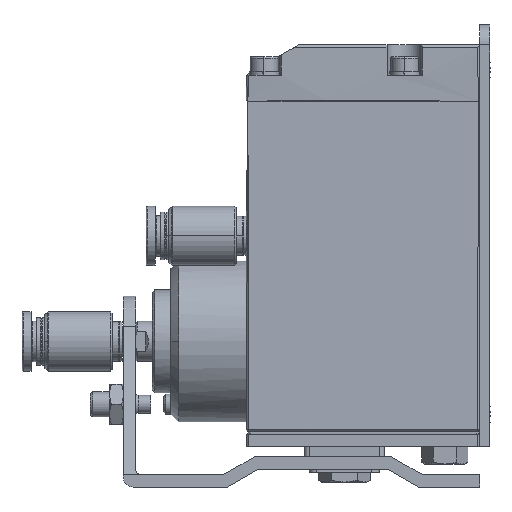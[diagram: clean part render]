
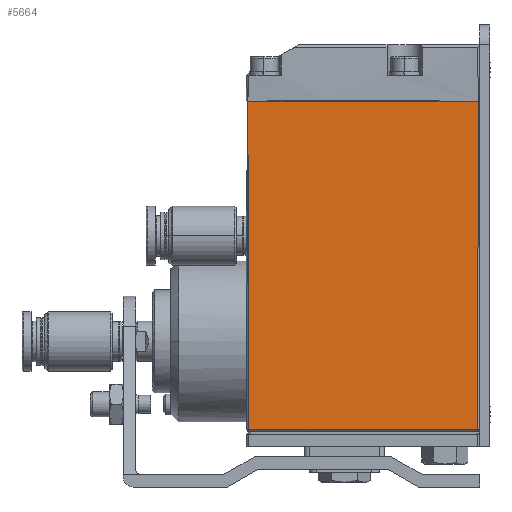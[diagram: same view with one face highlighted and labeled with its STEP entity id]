
A CAD part, left-side view. The second image highlights one B-rep face of the part: STEP entity #5664.
In plain terms, the highlighted planar face has unit normal (-1, 0, 0).
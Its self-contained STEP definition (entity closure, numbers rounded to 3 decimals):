
#5664 = ADVANCED_FACE ( 'NONE', ( #13400 ), #48139, .T. ) ;
#6151 = VECTOR ( 'NONE', #48859, 1000. ) ;
#6744 = LINE ( 'NONE', #36484, #17254 ) ;
#9044 = EDGE_CURVE ( 'NONE', #43270, #24378, #30257, .T. ) ;
#10068 = EDGE_CURVE ( 'NONE', #24378, #11203, #37405, .T. ) ;
#11203 = VERTEX_POINT ( 'NONE', #42520 ) ;
#13400 = FACE_OUTER_BOUND ( 'NONE', #34497, .T. ) ;
#14313 = DIRECTION ( 'NONE',  ( 0., 0., -1. ) ) ;
#14690 = CARTESIAN_POINT ( 'NONE',  ( 0.255, 0.3, 65.8 ) ) ;
#16884 = DIRECTION ( 'NONE',  ( 0., 1., 0. ) ) ;
#17254 = VECTOR ( 'NONE', #16884, 1000. ) ;
#19889 = VECTOR ( 'NONE', #29257, 1000. ) ;
#23073 = EDGE_CURVE ( 'NONE', #11203, #38588, #50682, .T. ) ;
#24378 = VERTEX_POINT ( 'NONE', #14690 ) ;
#25357 = CARTESIAN_POINT ( 'NONE',  ( 0., 46., 0.5 ) ) ;
#25623 = ORIENTED_EDGE ( 'NONE', *, *, #10068, .T. ) ;
#28621 = CARTESIAN_POINT ( 'NONE',  ( 0., 0.5, 33. ) ) ;
#28934 = CARTESIAN_POINT ( 'NONE',  ( 0., 0.5, 0.5 ) ) ;
#29257 = DIRECTION ( 'NONE',  ( 0., 0., 1. ) ) ;
#29533 = VECTOR ( 'NONE', #14313, 1000. ) ;
#30257 = LINE ( 'NONE', #28621, #19889 ) ;
#30427 = ORIENTED_EDGE ( 'NONE', *, *, #23073, .T. ) ;
#31892 = ORIENTED_EDGE ( 'NONE', *, *, #9044, .T. ) ;
#34164 = EDGE_CURVE ( 'NONE', #43270, #38588, #6744, .T. ) ;
#34497 = EDGE_LOOP ( 'NONE', ( #30427, #36343, #31892, #25623 ) ) ;
#34710 = AXIS2_PLACEMENT_3D ( 'NONE', #48434, #48390, #48565 ) ;
#36343 = ORIENTED_EDGE ( 'NONE', *, *, #34164, .F. ) ;
#36484 = CARTESIAN_POINT ( 'NONE',  ( 0., 23.25, 0.5 ) ) ;
#37405 = LINE ( 'NONE', #48900, #6151 ) ;
#38588 = VERTEX_POINT ( 'NONE', #25357 ) ;
#42520 = CARTESIAN_POINT ( 'NONE',  ( 0.255, 46.2, 65.8 ) ) ;
#43270 = VERTEX_POINT ( 'NONE', #28934 ) ;
#45820 = CARTESIAN_POINT ( 'NONE',  ( 0., 46., 33. ) ) ;
#48139 = PLANE ( 'NONE',  #34710 ) ;
#48390 = DIRECTION ( 'NONE',  ( -1., 0., 0. ) ) ;
#48434 = CARTESIAN_POINT ( 'NONE',  ( 0., -4.05, -6. ) ) ;
#48565 = DIRECTION ( 'NONE',  ( 0., 0., 1. ) ) ;
#48859 = DIRECTION ( 'NONE',  ( 0., 1., 0. ) ) ;
#48900 = CARTESIAN_POINT ( 'NONE',  ( 0., 23.25, 65.5 ) ) ;
#50682 = LINE ( 'NONE', #45820, #29533 ) ;
